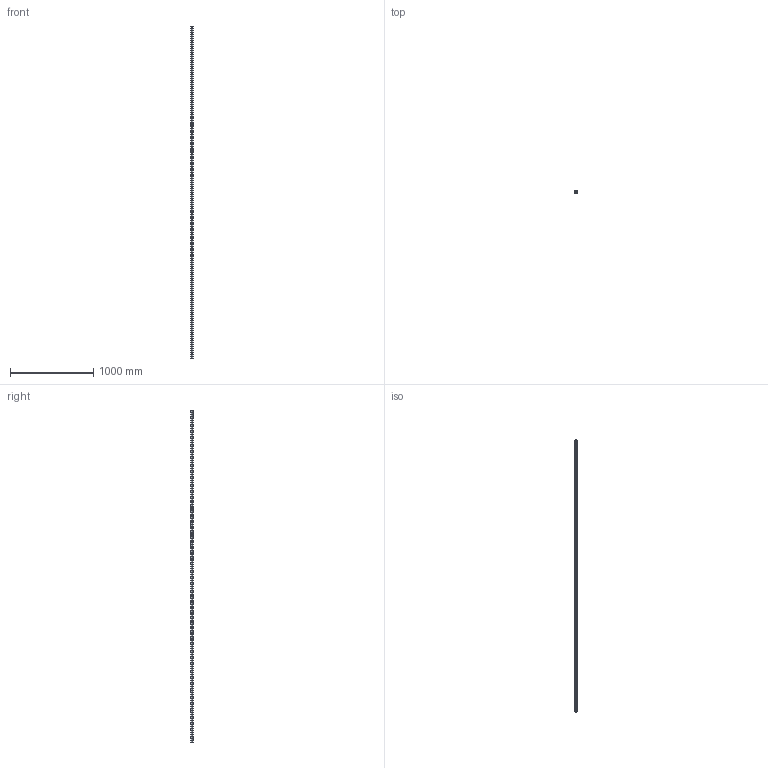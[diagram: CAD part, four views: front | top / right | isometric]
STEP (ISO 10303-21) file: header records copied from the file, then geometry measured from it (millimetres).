
FILE_DESCRIPTION (( 'STEP AP203' ), '1' );
FILE_NAME ('SGR35R4000L.STEP', '2025-06-26T09:02:07', ( 'Owner' ), ( 'Organization' ), 'SwSTEP 2.0', 'SolidWorks 2020', '' );
FILE_SCHEMA (( 'CONFIG_CONTROL_DESIGN' ));
Length unit declared in the file: millimetre
Products named in the file (1): SGR35R4000L
Bounding box: 34 x 29 x 4000 mm (x, y, z)
Volume: 3269405.9 mm3; surface area: 565175.6 mm2
Topology: 1 solids, 1 shells, 290 faces, 714 edges, 476 vertices
Faces by surface type: cylinder 210, plane 80
Entity records: 9075 total; most frequent: DIRECTION 1716, CARTESIAN_POINT 1481, ORIENTED_EDGE 1428, EDGE_CURVE 714, AXIS2_PLACEMENT_3D 711, VERTEX_POINT 476, EDGE_LOOP 440, CIRCLE 420
